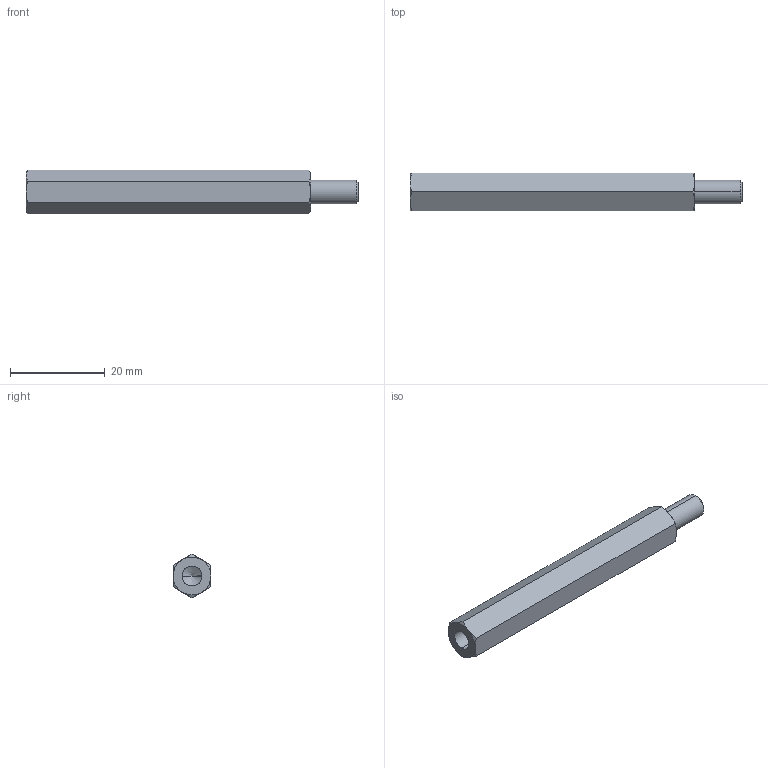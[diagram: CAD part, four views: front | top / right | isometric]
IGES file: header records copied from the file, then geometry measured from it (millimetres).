
Start section: SolidWorks IGES file using analytic representation for surfaces
Global section: file name: C:\Users\render1\Desktop\P0185_IGES\P0185.05-60.igs; native system: SolidWorks 2009; preprocessor: SolidWorks 2009; author: render1; date: 130627.112703; units: millimetre
Bounding box: 70 x 8 x 9.24 mm (x, y, z)
Surface area: 2055.7 mm2 (no closed solid volume)
Topology: 0 solids, 0 shells, 29 faces, 324 edges, 322 vertices
Faces by surface type: revolution 20, bspline 9
